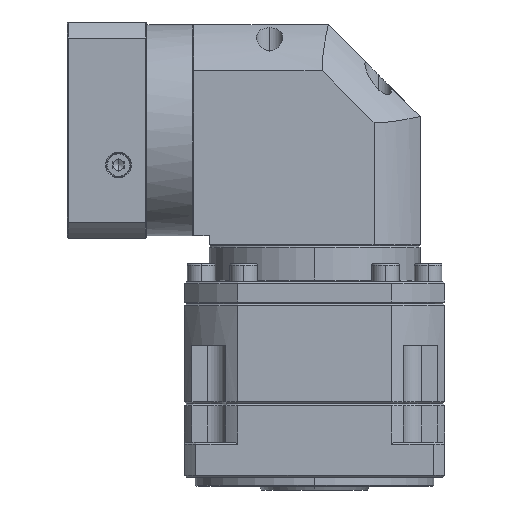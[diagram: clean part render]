
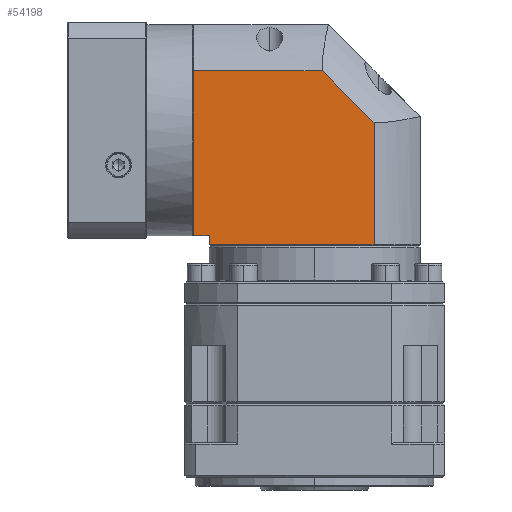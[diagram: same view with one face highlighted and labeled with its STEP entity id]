
A CAD part, left-side view. The second image highlights one B-rep face of the part: STEP entity #54198.
In plain terms, the highlighted planar face has unit normal (-1, 0, 0).
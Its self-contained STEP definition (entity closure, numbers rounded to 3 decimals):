
#6746 = ORIENTED_EDGE ( 'NONE', *, *, #136418, .F. ) ;
#11418 = DIRECTION ( 'NONE',  ( 0., -0.707, -0.707 ) ) ;
#12054 = EDGE_LOOP ( 'NONE', ( #112470, #32017, #52760, #82750, #81464, #106920, #6746 ) ) ;
#13854 = VECTOR ( 'NONE', #15610, 1000. ) ;
#15610 = DIRECTION ( 'NONE',  ( 0., 1., 0. ) ) ;
#19059 = LINE ( 'NONE', #83666, #24133 ) ;
#22811 = VERTEX_POINT ( 'NONE', #26742 ) ;
#24133 = VECTOR ( 'NONE', #116442, 1000. ) ;
#24179 = DIRECTION ( 'NONE',  ( 0., 0., -1. ) ) ;
#26742 = CARTESIAN_POINT ( 'NONE',  ( -212.162, 10.892, 20.187 ) ) ;
#27095 = CARTESIAN_POINT ( 'NONE',  ( -212.162, 109.192, -41.375 ) ) ;
#27911 = VERTEX_POINT ( 'NONE', #112191 ) ;
#28447 = VERTEX_POINT ( 'NONE', #90201 ) ;
#29944 = VERTEX_POINT ( 'NONE', #37103 ) ;
#30340 = LINE ( 'NONE', #36429, #137269 ) ;
#31091 = CARTESIAN_POINT ( 'NONE',  ( -212.162, 109.192, 48.525 ) ) ;
#32017 = ORIENTED_EDGE ( 'NONE', *, *, #105270, .F. ) ;
#34914 = FACE_OUTER_BOUND ( 'NONE', #12054, .T. ) ;
#36429 = CARTESIAN_POINT ( 'NONE',  ( -212.162, 109.192, -52.875 ) ) ;
#37103 = CARTESIAN_POINT ( 'NONE',  ( -212.162, 10.892, -46.375 ) ) ;
#38163 = EDGE_CURVE ( 'NONE', #114843, #28447, #61674, .T. ) ;
#40032 = EDGE_CURVE ( 'NONE', #117263, #114843, #30340, .T. ) ;
#44639 = CARTESIAN_POINT ( 'NONE',  ( -212.162, 39.23, 48.525 ) ) ;
#51447 = VECTOR ( 'NONE', #106623, 1000. ) ;
#52760 = ORIENTED_EDGE ( 'NONE', *, *, #38163, .F. ) ;
#54198 = ADVANCED_FACE ( 'NONE', ( #34914 ), #139774, .F. ) ;
#59460 = EDGE_CURVE ( 'NONE', #71699, #27911, #128099, .T. ) ;
#61674 = LINE ( 'NONE', #126533, #51447 ) ;
#62459 = DIRECTION ( 'NONE',  ( 0., -1., 0. ) ) ;
#67129 = DIRECTION ( 'NONE',  ( 0., 0., -1. ) ) ;
#68711 = CARTESIAN_POINT ( 'NONE',  ( -212.162, -14.208, -46.375 ) ) ;
#71699 = VERTEX_POINT ( 'NONE', #121491 ) ;
#72815 = VECTOR ( 'NONE', #11418, 1000. ) ;
#81464 = ORIENTED_EDGE ( 'NONE', *, *, #118898, .T. ) ;
#82750 = ORIENTED_EDGE ( 'NONE', *, *, #40032, .F. ) ;
#83666 = CARTESIAN_POINT ( 'NONE',  ( -212.162, 100.792, -41.375 ) ) ;
#87805 = VECTOR ( 'NONE', #24179, 1000. ) ;
#90201 = CARTESIAN_POINT ( 'NONE',  ( -212.162, 39.23, 48.525 ) ) ;
#99271 = VECTOR ( 'NONE', #67129, 1000. ) ;
#99413 = CARTESIAN_POINT ( 'NONE',  ( -212.162, 100.792, 73.625 ) ) ;
#105270 = EDGE_CURVE ( 'NONE', #28447, #22811, #110189, .T. ) ;
#106623 = DIRECTION ( 'NONE',  ( 0., -1., 0. ) ) ;
#106920 = ORIENTED_EDGE ( 'NONE', *, *, #59460, .T. ) ;
#107539 = DIRECTION ( 'NONE',  ( 1., 0., 0. ) ) ;
#110189 = LINE ( 'NONE', #44639, #72815 ) ;
#112191 = CARTESIAN_POINT ( 'NONE',  ( -212.162, 100.792, -46.375 ) ) ;
#112470 = ORIENTED_EDGE ( 'NONE', *, *, #138679, .F. ) ;
#114843 = VERTEX_POINT ( 'NONE', #31091 ) ;
#116442 = DIRECTION ( 'NONE',  ( 0., -1., 0. ) ) ;
#117263 = VERTEX_POINT ( 'NONE', #27095 ) ;
#118898 = EDGE_CURVE ( 'NONE', #117263, #71699, #19059, .T. ) ;
#120396 = CARTESIAN_POINT ( 'NONE',  ( -212.162, 10.892, -52.875 ) ) ;
#121491 = CARTESIAN_POINT ( 'NONE',  ( -212.162, 100.792, -41.375 ) ) ;
#124099 = LINE ( 'NONE', #68711, #13854 ) ;
#126533 = CARTESIAN_POINT ( 'NONE',  ( -212.162, -14.208, 48.525 ) ) ;
#127877 = CARTESIAN_POINT ( 'NONE',  ( -212.162, -14.208, -52.875 ) ) ;
#128099 = LINE ( 'NONE', #99413, #99271 ) ;
#133111 = DIRECTION ( 'NONE',  ( 0., 0., 1. ) ) ;
#136418 = EDGE_CURVE ( 'NONE', #29944, #27911, #124099, .T. ) ;
#137269 = VECTOR ( 'NONE', #133111, 1000. ) ;
#138679 = EDGE_CURVE ( 'NONE', #22811, #29944, #140306, .T. ) ;
#138913 = AXIS2_PLACEMENT_3D ( 'NONE', #127877, #107539, #62459 ) ;
#139774 = PLANE ( 'NONE',  #138913 ) ;
#140306 = LINE ( 'NONE', #120396, #87805 ) ;
